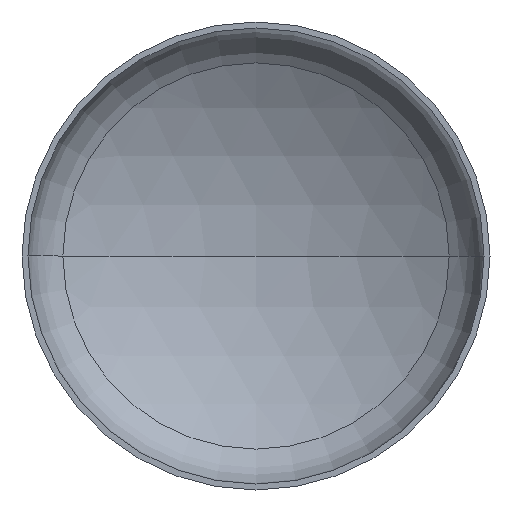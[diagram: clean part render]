
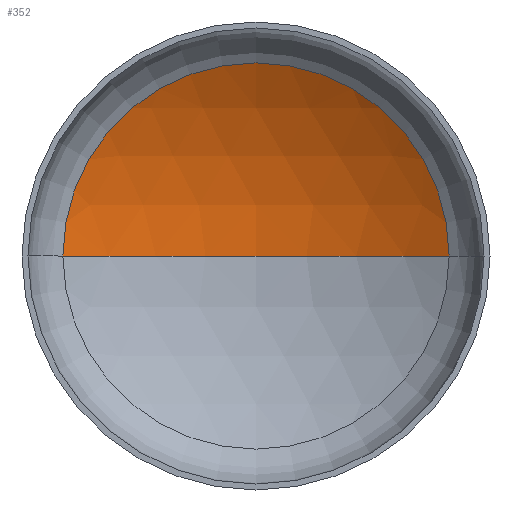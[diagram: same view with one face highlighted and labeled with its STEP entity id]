
A CAD part, front view. The second image highlights one B-rep face of the part: STEP entity #352.
In plain terms, the highlighted spherical face has radius 6000 mm.
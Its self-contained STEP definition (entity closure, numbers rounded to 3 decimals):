
#3 = AXIS2_PLACEMENT_3D ( 'NONE', #187, #225, #42 ) ;
#11 = ORIENTED_EDGE ( 'NONE', *, *, #76, .T. ) ;
#31 = AXIS2_PLACEMENT_3D ( 'NONE', #167, #168, #141 ) ;
#37 = AXIS2_PLACEMENT_3D ( 'NONE', #277, #188, #180 ) ;
#40 = CARTESIAN_POINT ( 'NONE',  ( 3094.737, 1089.506, 0. ) ) ;
#42 = DIRECTION ( 'NONE',  ( -1., 0., 0. ) ) ;
#43 = AXIS2_PLACEMENT_3D ( 'NONE', #139, #147, #148 ) ;
#71 = EDGE_CURVE ( 'NONE', #213, #87, #317, .T. ) ;
#76 = EDGE_CURVE ( 'NONE', #185, #213, #256, .T. ) ;
#77 = EDGE_CURVE ( 'NONE', #185, #87, #186, .T. ) ;
#87 = VERTEX_POINT ( 'NONE', #142 ) ;
#97 = ORIENTED_EDGE ( 'NONE', *, *, #77, .F. ) ;
#132 = FACE_OUTER_BOUND ( 'NONE', #194, .T. ) ;
#139 = CARTESIAN_POINT ( 'NONE',  ( 0., 1089.506, 0. ) ) ;
#141 = DIRECTION ( 'NONE',  ( 1., 0., 0. ) ) ;
#142 = CARTESIAN_POINT ( 'NONE',  ( -3094.737, 1089.506, 0. ) ) ;
#147 = DIRECTION ( 'NONE',  ( 0., -1., 0. ) ) ;
#148 = DIRECTION ( 'NONE',  ( 1., 0., 0. ) ) ;
#167 = CARTESIAN_POINT ( 'NONE',  ( 0., -4050.786, 0. ) ) ;
#168 = DIRECTION ( 'NONE',  ( 0., 0., 1. ) ) ;
#180 = DIRECTION ( 'NONE',  ( -1., 0., 0. ) ) ;
#185 = VERTEX_POINT ( 'NONE', #238 ) ;
#186 = CIRCLE ( 'NONE', #31, 6000. ) ;
#187 = CARTESIAN_POINT ( 'NONE',  ( 0., -4050.786, 0. ) ) ;
#188 = DIRECTION ( 'NONE',  ( 0., 0., -1. ) ) ;
#194 = EDGE_LOOP ( 'NONE', ( #97, #11, #219 ) ) ;
#213 = VERTEX_POINT ( 'NONE', #40 ) ;
#214 = SPHERICAL_SURFACE ( 'NONE', #3, 6000. ) ;
#219 = ORIENTED_EDGE ( 'NONE', *, *, #71, .T. ) ;
#225 = DIRECTION ( 'NONE',  ( 0., 0., -1. ) ) ;
#238 = CARTESIAN_POINT ( 'NONE',  ( 0., 1949.214, 0. ) ) ;
#256 = CIRCLE ( 'NONE', #37, 6000. ) ;
#277 = CARTESIAN_POINT ( 'NONE',  ( 0., -4050.786, 0. ) ) ;
#317 = CIRCLE ( 'NONE', #43, 3094.737 ) ;
#352 = ADVANCED_FACE ( 'NONE', ( #132 ), #214, .F. ) ;
